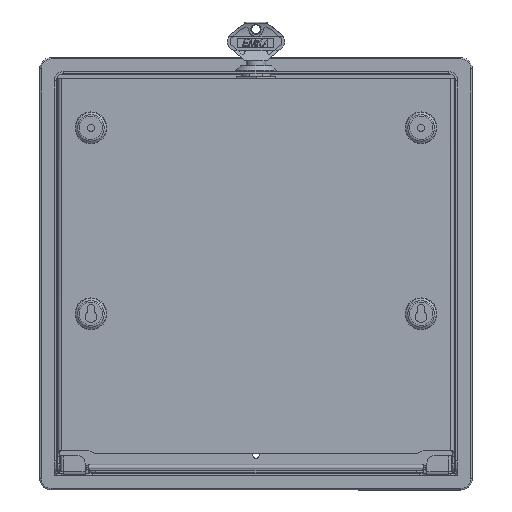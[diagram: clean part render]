
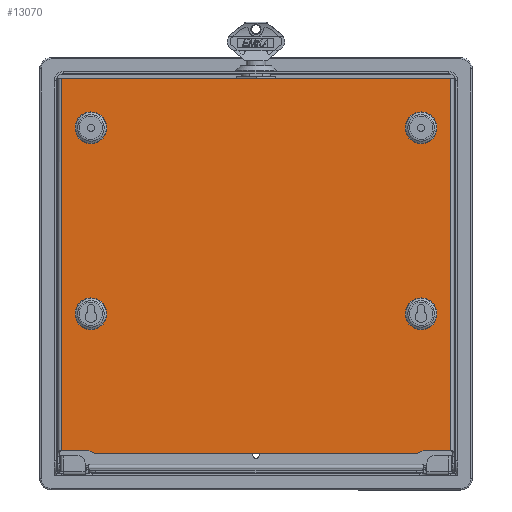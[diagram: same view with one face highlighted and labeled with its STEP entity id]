
A CAD part, top view. The second image highlights one B-rep face of the part: STEP entity #13070.
In plain terms, the highlighted planar face has unit normal (0, 0, 1) as drawn and (0, 1, 0) by its records, which use the part's own axes.
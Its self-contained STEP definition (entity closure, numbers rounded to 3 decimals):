
#539=FACE_BOUND('',#2008,.T.);
#540=FACE_BOUND('',#2009,.T.);
#541=FACE_BOUND('',#2010,.T.);
#542=FACE_BOUND('',#2011,.T.);
#653=PLANE('',#13943);
#1214=FACE_OUTER_BOUND('',#2007,.T.);
#2007=EDGE_LOOP('',(#9311,#9312,#9313,#9314,#9315,#9316,#9317,#9318,#9319,
#9320,#9321,#9322));
#2008=EDGE_LOOP('',(#9323));
#2009=EDGE_LOOP('',(#9324));
#2010=EDGE_LOOP('',(#9325));
#2011=EDGE_LOOP('',(#9326));
#2841=LINE('',#19095,#4220);
#2848=LINE('',#19113,#4227);
#2850=LINE('',#19122,#4229);
#2851=LINE('',#19127,#4230);
#2852=LINE('',#19129,#4231);
#2853=LINE('',#19131,#4232);
#4220=VECTOR('',#15358,18.071);
#4227=VECTOR('',#15373,18.071);
#4229=VECTOR('',#15383,221.328);
#4230=VECTOR('',#15388,258.009);
#4231=VECTOR('',#15389,270.);
#4232=VECTOR('',#15390,258.009);
#5595=CIRCLE('',#13863,11.);
#5603=CIRCLE('',#13879,11.);
#5613=CIRCLE('',#13898,11.);
#5621=CIRCLE('',#13914,11.);
#5632=CIRCLE('',#13934,5.);
#5633=CIRCLE('',#13937,5.);
#5636=CIRCLE('',#13942,5.);
#5637=CIRCLE('',#13944,5.);
#5638=CIRCLE('',#13945,4.);
#5639=CIRCLE('',#13946,4.);
#6010=VERTEX_POINT('',#18979);
#6018=VERTEX_POINT('',#19003);
#6028=VERTEX_POINT('',#19032);
#6036=VERTEX_POINT('',#19056);
#6048=VERTEX_POINT('',#19088);
#6049=VERTEX_POINT('',#19090);
#6050=VERTEX_POINT('',#19094);
#6052=VERTEX_POINT('',#19100);
#6053=VERTEX_POINT('',#19101);
#6057=VERTEX_POINT('',#19111);
#6059=VERTEX_POINT('',#19117);
#6060=VERTEX_POINT('',#19121);
#6061=VERTEX_POINT('',#19124);
#6062=VERTEX_POINT('',#19126);
#6063=VERTEX_POINT('',#19128);
#6064=VERTEX_POINT('',#19130);
#7278=EDGE_CURVE('',#6010,#6010,#5595,.T.);
#7286=EDGE_CURVE('',#6018,#6018,#5603,.T.);
#7296=EDGE_CURVE('',#6028,#6028,#5613,.T.);
#7304=EDGE_CURVE('',#6036,#6036,#5621,.T.);
#7316=EDGE_CURVE('',#6049,#6048,#5632,.F.);
#7318=EDGE_CURVE('',#6050,#6049,#2841,.T.);
#7321=EDGE_CURVE('',#6052,#6053,#5633,.F.);
#7327=EDGE_CURVE('',#6053,#6057,#2848,.T.);
#7330=EDGE_CURVE('',#6059,#6048,#5636,.T.);
#7331=EDGE_CURVE('',#6060,#6059,#2850,.T.);
#7332=EDGE_CURVE('',#6052,#6060,#5637,.T.);
#7333=EDGE_CURVE('',#6057,#6061,#5638,.T.);
#7334=EDGE_CURVE('',#6061,#6062,#2851,.T.);
#7335=EDGE_CURVE('',#6063,#6062,#2852,.T.);
#7336=EDGE_CURVE('',#6064,#6063,#2853,.T.);
#7337=EDGE_CURVE('',#6064,#6050,#5639,.T.);
#9311=ORIENTED_EDGE('',*,*,#7330,.F.);
#9312=ORIENTED_EDGE('',*,*,#7331,.F.);
#9313=ORIENTED_EDGE('',*,*,#7332,.F.);
#9314=ORIENTED_EDGE('',*,*,#7321,.T.);
#9315=ORIENTED_EDGE('',*,*,#7327,.T.);
#9316=ORIENTED_EDGE('',*,*,#7333,.T.);
#9317=ORIENTED_EDGE('',*,*,#7334,.T.);
#9318=ORIENTED_EDGE('',*,*,#7335,.F.);
#9319=ORIENTED_EDGE('',*,*,#7336,.F.);
#9320=ORIENTED_EDGE('',*,*,#7337,.T.);
#9321=ORIENTED_EDGE('',*,*,#7318,.T.);
#9322=ORIENTED_EDGE('',*,*,#7316,.T.);
#9323=ORIENTED_EDGE('',*,*,#7278,.F.);
#9324=ORIENTED_EDGE('',*,*,#7286,.F.);
#9325=ORIENTED_EDGE('',*,*,#7296,.F.);
#9326=ORIENTED_EDGE('',*,*,#7304,.F.);
#13070=ADVANCED_FACE('',(#1214,#539,#540,#541,#542),#653,.F.);
#13863=AXIS2_PLACEMENT_3D('',#18980,#15210,#15211);
#13879=AXIS2_PLACEMENT_3D('',#19004,#15242,#15243);
#13898=AXIS2_PLACEMENT_3D('',#19033,#15280,#15281);
#13914=AXIS2_PLACEMENT_3D('',#19057,#15312,#15313);
#13934=AXIS2_PLACEMENT_3D('',#19091,#15353,#15354);
#13937=AXIS2_PLACEMENT_3D('',#19102,#15363,#15364);
#13942=AXIS2_PLACEMENT_3D('',#19119,#15379,#15380);
#13943=AXIS2_PLACEMENT_3D('',#19120,#15381,#15382);
#13944=AXIS2_PLACEMENT_3D('',#19123,#15384,#15385);
#13945=AXIS2_PLACEMENT_3D('',#19125,#15386,#15387);
#13946=AXIS2_PLACEMENT_3D('',#19132,#15391,#15392);
#15210=DIRECTION('center_axis',(0.,1.,0.));
#15211=DIRECTION('ref_axis',(1.,0.,0.));
#15242=DIRECTION('center_axis',(0.,1.,0.));
#15243=DIRECTION('ref_axis',(1.,0.,0.));
#15280=DIRECTION('center_axis',(0.,1.,0.));
#15281=DIRECTION('ref_axis',(1.,0.,0.));
#15312=DIRECTION('center_axis',(0.,1.,0.));
#15313=DIRECTION('ref_axis',(1.,0.,0.));
#15353=DIRECTION('center_axis',(0.,1.,0.));
#15354=DIRECTION('ref_axis',(0.,0.,-1.));
#15358=DIRECTION('',(-1.,0.,0.));
#15363=DIRECTION('center_axis',(0.,1.,0.));
#15364=DIRECTION('ref_axis',(0.,0.,-1.));
#15373=DIRECTION('',(-1.,0.,0.));
#15379=DIRECTION('center_axis',(0.,-1.,0.));
#15380=DIRECTION('ref_axis',(0.383,0.,-0.924));
#15381=DIRECTION('center_axis',(0.,-1.,0.));
#15382=DIRECTION('ref_axis',(0.,0.,-1.));
#15383=DIRECTION('',(1.,0.,0.));
#15384=DIRECTION('center_axis',(0.,-1.,0.));
#15385=DIRECTION('ref_axis',(-0.383,0.,-0.924));
#15386=DIRECTION('center_axis',(0.,-1.,0.));
#15387=DIRECTION('ref_axis',(-1.,0.,0.));
#15388=DIRECTION('',(0.,0.,1.));
#15389=DIRECTION('',(-1.,0.,0.));
#15390=DIRECTION('',(0.,0.,1.));
#15391=DIRECTION('center_axis',(0.,-1.,0.));
#15392=DIRECTION('ref_axis',(0.,0.,1.));
#18979=CARTESIAN_POINT('',(-114.5,0.,-44.));
#18980=CARTESIAN_POINT('Origin',(-114.5,0.,-33.));
#19003=CARTESIAN_POINT('',(-114.5,0.,85.));
#19004=CARTESIAN_POINT('Origin',(-114.5,0.,96.));
#19032=CARTESIAN_POINT('',(114.5,0.,-44.));
#19033=CARTESIAN_POINT('Origin',(114.5,0.,-33.));
#19056=CARTESIAN_POINT('',(114.5,0.,85.));
#19057=CARTESIAN_POINT('Origin',(114.5,0.,96.));
#19088=CARTESIAN_POINT('',(113.664,0.,-129.));
#19090=CARTESIAN_POINT('',(116.664,0.,-128.));
#19091=CARTESIAN_POINT('Origin',(116.664,0.,
-133.));
#19094=CARTESIAN_POINT('',(134.735,0.,-128.));
#19095=CARTESIAN_POINT('',(57.368,0.,-128.));
#19100=CARTESIAN_POINT('',(-113.664,0.,-129.));
#19101=CARTESIAN_POINT('',(-116.664,0.,-128.));
#19102=CARTESIAN_POINT('Origin',(-116.664,0.,
-133.));
#19111=CARTESIAN_POINT('',(-134.735,0.,-128.));
#19113=CARTESIAN_POINT('',(-67.368,0.,-128.));
#19117=CARTESIAN_POINT('',(110.664,0.,-130.));
#19119=CARTESIAN_POINT('Origin',(110.664,0.,
-125.));
#19120=CARTESIAN_POINT('Origin',(0.,0.,
0.));
#19121=CARTESIAN_POINT('',(-110.664,0.,-130.));
#19122=CARTESIAN_POINT('',(137.235,0.,-130.));
#19123=CARTESIAN_POINT('Origin',(-110.664,0.,
-125.));
#19124=CARTESIAN_POINT('',(-135.,0.,-128.009));
#19125=CARTESIAN_POINT('Origin',(-134.735,0.,-132.));
#19126=CARTESIAN_POINT('',(-135.,0.,130.));
#19127=CARTESIAN_POINT('',(-135.,0.,0.));
#19128=CARTESIAN_POINT('',(135.,0.,130.));
#19129=CARTESIAN_POINT('',(-180.136,0.,130.));
#19130=CARTESIAN_POINT('',(135.,0.,-128.009));
#19131=CARTESIAN_POINT('',(135.,0.,0.));
#19132=CARTESIAN_POINT('Origin',(134.735,0.,-132.));
